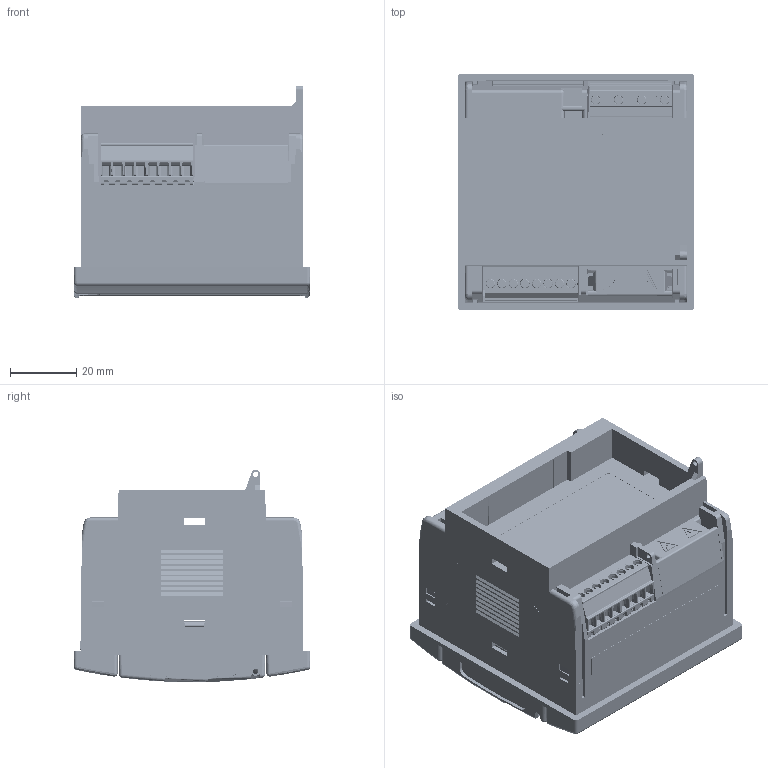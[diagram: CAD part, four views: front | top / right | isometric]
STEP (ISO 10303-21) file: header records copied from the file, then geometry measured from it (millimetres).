
FILE_DESCRIPTION(/* description */ (''),/* implementation_level */ '2;1');
FILE_NAME(/* name */ 'D:\Meccanica\72x72\EM2172F\EM270 panel mounting_1.stp',/* time_stamp */ '2014-10-24T13:37:21+02:00',/* author */ ('dfregona'),/* organization */ (''),/* preprocessor_version */ 'ST-DEVELOPER v15.2',/* originating_system */ 'Autodesk Inventor 2014',/* authorisation */ '');
FILE_SCHEMA (('AUTOMOTIVE_DESIGN { 1 0 10303 214 3 1 1 }'));
Products named in the file (1): EM270 panel mounting
Bounding box: 71.7 x 71.7 x 64.35 mm (x, y, z)
Surface area: 148970.8 mm2 (no closed solid volume)
Topology: 0 solids, 103 shells, 12349 faces, 34762 edges, 22679 vertices
Faces by surface type: plane 8736, cylinder 3041, torus 196, cone 181, sphere 104, bspline 91
Full cylindrical faces by diameter (mm): 0.5 x14, 0.6 x4, 0.8 x79, 0.9 x12, 1 x54, 1.2 x81, 1.3 x6, 1.4 x2, 1.52 x5, 1.6 x2, 2 x6, 2.1 x2, 2.3 x1, 2.8 x4, 2.9 x37, 3 x6, 3.25 x4, 4 x2, 4.2 x3, 4.4 x1, 5.6 x1, 6.7 x1, 6.8 x2, 8 x2, 9 x2, 18 x1
Entity records: 421347 total; most frequent: CARTESIAN_POINT 89035, ORIENTED_EDGE 68184, DIRECTION 64175, EDGE_CURVE 34032, LINE 25571, VECTOR 25571, VERTEX_POINT 22545, AXIS2_PLACEMENT_3D 19302
